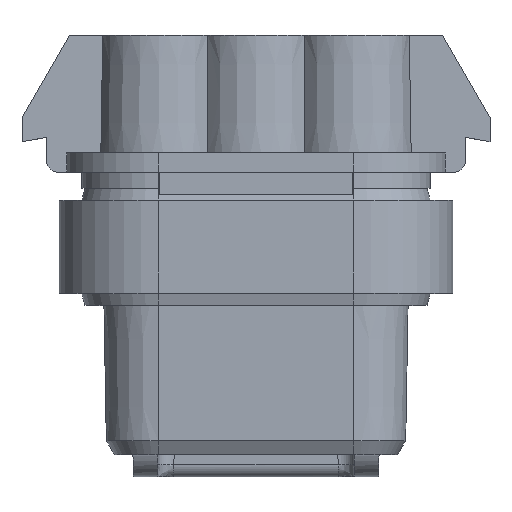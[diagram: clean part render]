
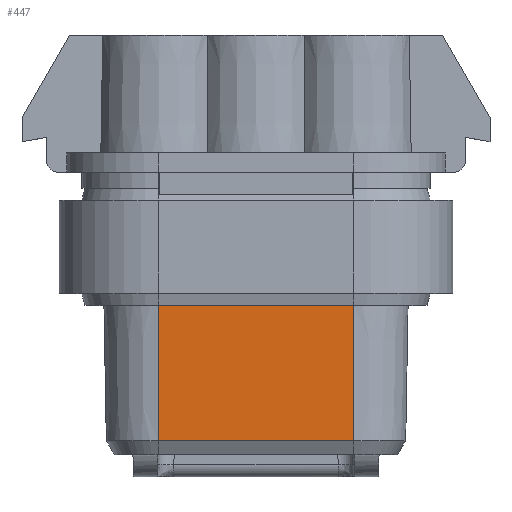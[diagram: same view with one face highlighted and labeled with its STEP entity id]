
A CAD part, top view. The second image highlights one B-rep face of the part: STEP entity #447.
In plain terms, the highlighted planar face has unit normal (0, -0.018, 1).
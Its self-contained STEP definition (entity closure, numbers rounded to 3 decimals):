
#447=ADVANCED_FACE('',(#700),#549,.T.);
#549=PLANE('',#3273);
#700=FACE_OUTER_BOUND('',#857,.T.);
#857=EDGE_LOOP('',(#1708,#1709,#1710,#1711));
#1708=ORIENTED_EDGE('',*,*,#2338,.F.);
#1709=ORIENTED_EDGE('',*,*,#2409,.T.);
#1710=ORIENTED_EDGE('',*,*,#2384,.T.);
#1711=ORIENTED_EDGE('',*,*,#2414,.T.);
#1947=VERTEX_POINT('',#4903);
#1948=VERTEX_POINT('',#4905);
#1970=VERTEX_POINT('',#4991);
#1973=VERTEX_POINT('',#4996);
#2338=EDGE_CURVE('',#1947,#1948,#2668,.T.);
#2384=EDGE_CURVE('',#1970,#1973,#2703,.T.);
#2409=EDGE_CURVE('',#1947,#1970,#2714,.T.);
#2414=EDGE_CURVE('',#1973,#1948,#2717,.T.);
#2668=LINE('',#4904,#2971);
#2703=LINE('',#4997,#3006);
#2714=LINE('',#5070,#3017);
#2717=LINE('',#5091,#3020);
#2971=VECTOR('',#3919,1.);
#3006=VECTOR('',#4018,1.);
#3017=VECTOR('',#4065,1.);
#3020=VECTOR('',#4076,1.);
#3273=AXIS2_PLACEMENT_3D('',#5094,#4081,#4082);
#3919=DIRECTION('',(1.,0.,0.));
#4018=DIRECTION('',(1.,0.,0.));
#4065=DIRECTION('',(0.,-1.,-0.017));
#4076=DIRECTION('',(0.,1.,0.017));
#4081=DIRECTION('',(0.,-0.017,1.));
#4082=DIRECTION('',(0.,-1.,-0.017));
#4903=CARTESIAN_POINT('',(-6.05,9.25,3.396));
#4904=CARTESIAN_POINT('',(0.,9.25,3.396));
#4905=CARTESIAN_POINT('',(6.05,9.25,3.396));
#4991=CARTESIAN_POINT('',(-6.05,0.866,3.25));
#4996=CARTESIAN_POINT('',(6.05,0.866,3.25));
#4997=CARTESIAN_POINT('',(0.,0.866,3.25));
#5070=CARTESIAN_POINT('',(-6.05,0.866,3.25));
#5091=CARTESIAN_POINT('',(6.05,0.866,3.25));
#5094=CARTESIAN_POINT('',(0.,0.866,3.25));
